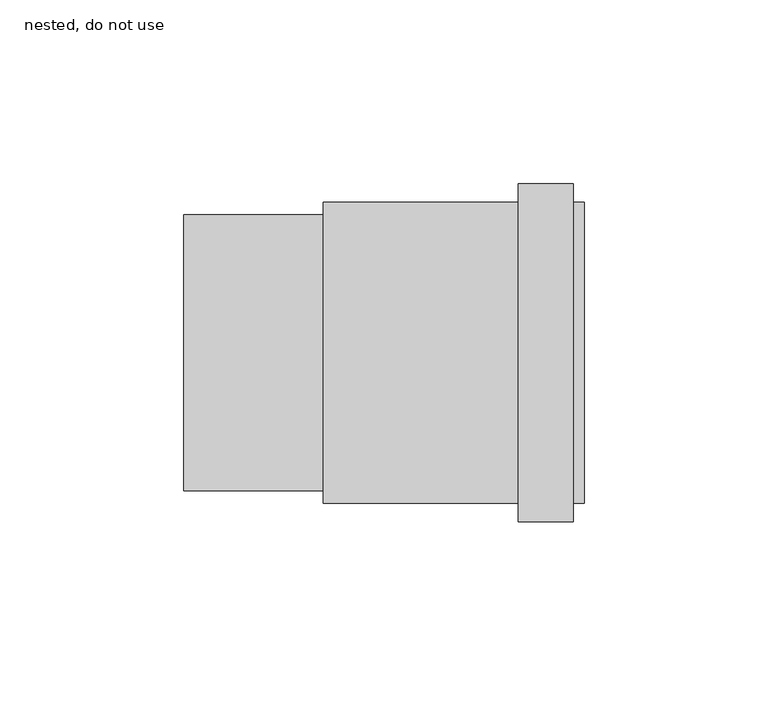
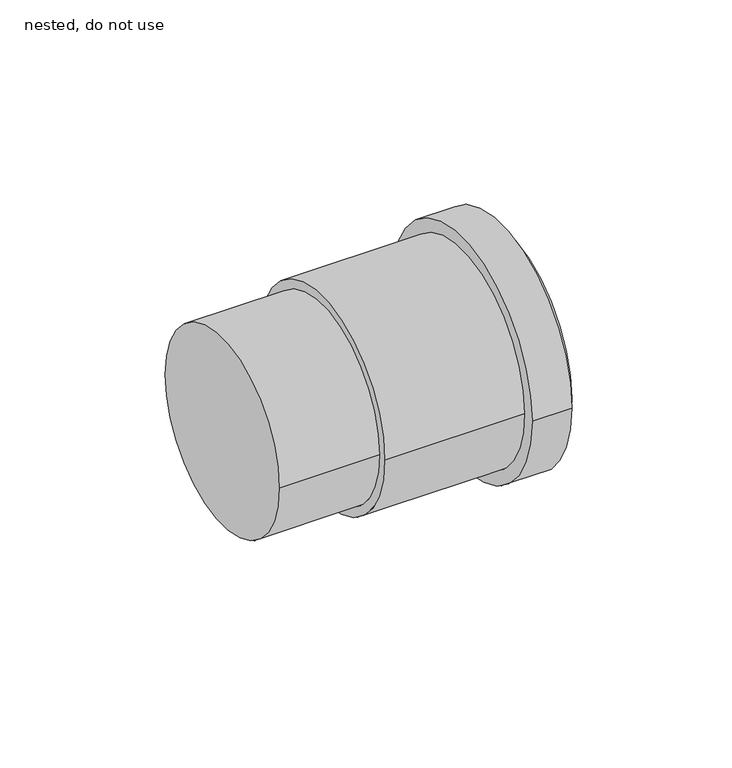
"""IFC4 building model written with IfcOpenShell, lengths in millimetres: pipe fitting geometry, NLRS_52_PIF_UN_HDPE plugin socket -SH_Akatherm : nested, do not use."""

import ifcopenshell
import ifcopenshell.guid

model = None  # the IFC model being written
_history = None  # IfcOwnerHistory: only IFC2X3 demands one
_inside = {}  # id of a spatial element -> (the spatial element, [elements in it])
_under = {}  # id of a project, library or spatial element -> (it, [spatial elements below it])
_declared = {}  # id of a project -> (the project, [libraries it declares])
_typed = {}  # id of a type object -> (the type object, [elements of that type])
_made_of = {}  # id of a material, layer set ... -> (it, [elements and type objects made of it])


def new_model(schema):
    """Start an empty IFC model of exactly this schema.

    Asked for "IFC4X3", IfcOpenShell would pick the latest addendum, in which some entities
    have other attributes; the version numbers below select the first issue.
    IFC2X3 requires an IfcOwnerHistory on every rooted entity: one is made here for all.
    """
    global model, _history
    if schema == "IFC4X3":
        model = ifcopenshell.file(schema_version=(4, 3, 0, 0))
    else:
        model = ifcopenshell.file(schema=schema)
    _inside.clear()
    _under.clear()
    _declared.clear()
    _typed.clear()
    _made_of.clear()
    _history = None
    if model.schema == "IFC2X3":
        org = make("IfcOrganization", Name="unknown")
        user = make(
            "IfcPersonAndOrganization",
            ThePerson=make("IfcPerson", FamilyName="unknown"),
            TheOrganization=org,
        )
        app = make(
            "IfcApplication",
            ApplicationDeveloper=org,
            Version="unknown",
            ApplicationFullName="unknown",
            ApplicationIdentifier="unknown",
        )
        _history = make(
            "IfcOwnerHistory",
            OwningUser=user,
            OwningApplication=app,
            ChangeAction="ADDED",
            CreationDate=0,
        )
    return model


def make(cls, **values):
    """One entity of the class cls with the attributes given. An attribute that is None is left unset."""
    return model.create_entity(
        cls, **{name: value for name, value in values.items() if value is not None}
    )


def rooted(cls, **values):
    """An entity with a GlobalId (a new one), such as an element, a storey or a relation."""
    return make(cls, GlobalId=ifcopenshell.guid.new(), OwnerHistory=_history, **values)


def si_unit(unit_type, name, prefix=None):
    """IfcSIUnit, for example si_unit("LENGTHUNIT", "METRE", prefix="MILLI")."""
    return make("IfcSIUnit", UnitType=unit_type, Prefix=prefix, Name=name)


def assignment(units):
    """IfcUnitAssignment: the units of a project."""
    return None if units is None else make("IfcUnitAssignment", Units=units)


def point(xyz):
    """IfcCartesianPoint."""
    return None if xyz is None else make("IfcCartesianPoint", Coordinates=xyz)


def direction(xyz):
    """IfcDirection."""
    return None if xyz is None else make("IfcDirection", DirectionRatios=xyz)


def frame(location, z_axis=None, x_axis=None):
    """IfcAxis2Placement3D, a coordinate frame: its origin and axes. An axis left out is left unset."""
    return make(
        "IfcAxis2Placement3D",
        Location=point(location),
        Axis=direction(z_axis),
        RefDirection=direction(x_axis),
    )


def origin():
    """The frame at (0, 0, 0) with its axes left unset."""
    return frame((0.0, 0.0, 0.0))


def place(relative_to, where):
    """IfcLocalPlacement: puts the frame where relative to a parent placement (None: the world)."""
    return make(
        "IfcLocalPlacement", PlacementRelTo=relative_to, RelativePlacement=where
    )


def context(
    kind, dimensions, precision=None, world=None, true_north=None, identifier=None
):
    """IfcGeometricRepresentationContext, for example the 3D "Model" context."""
    return make(
        "IfcGeometricRepresentationContext",
        ContextIdentifier=identifier,
        ContextType=kind,
        CoordinateSpaceDimension=dimensions,
        Precision=precision,
        WorldCoordinateSystem=world,
        TrueNorth=true_north,
    )


def project(units=None, contexts=None):
    """IfcProject with its units and contexts."""
    return rooted(
        "IfcProject",
        Name="project",
        RepresentationContexts=contexts,
        UnitsInContext=assignment(units),
    )


def spatial(cls, under=None, at=None, **own):
    """A site, building, storey or space (cls), placed at a placement, below another one or the project."""
    s = rooted(cls, ObjectPlacement=at, **own)
    if under is not None:
        _under.setdefault(under.id(), (under, []))[1].append(s)
    return s


def circle_curve(where, radius):
    """IfcCircle in the frame where."""
    return make("IfcCircle", Position=where, Radius=radius)


def shape(context_of_items, identifier, shape_type, items):
    """IfcShapeRepresentation: the items that make up one representation, for example the "Body"."""
    return make(
        "IfcShapeRepresentation",
        ContextOfItems=context_of_items,
        RepresentationIdentifier=identifier,
        RepresentationType=shape_type,
        Items=items,
    )


def source(mapping_origin, context_of_items, identifier, shape_type, items):
    """IfcRepresentationMap: a shape defined once, which mapped items show again and again."""
    return make(
        "IfcRepresentationMap",
        MappingOrigin=mapping_origin,
        MappedRepresentation=shape(context_of_items, identifier, shape_type, items),
    )


def transform(
    local_origin,
    x_axis=None,
    y_axis=None,
    z_axis=None,
    scale=None,
    scale2=None,
    scale3=None,
    uniform=True,
):
    """IfcCartesianTransformationOperator3D, or its non-uniform kind. x_axis, y_axis, z_axis: its Axis1, 2, 3."""
    if uniform:
        return make(
            "IfcCartesianTransformationOperator3D",
            Axis1=direction(x_axis),
            Axis2=direction(y_axis),
            LocalOrigin=point(local_origin),
            Scale=scale,
            Axis3=direction(z_axis),
        )
    return make(
        "IfcCartesianTransformationOperator3DnonUniform",
        Axis1=direction(x_axis),
        Axis2=direction(y_axis),
        LocalOrigin=point(local_origin),
        Scale=scale,
        Axis3=direction(z_axis),
        Scale2=scale2,
        Scale3=scale3,
    )


def mapped(mapping_source, mapping_target):
    """IfcMappedItem: shows the shape of a source again, moved by a transform."""
    return make(
        "IfcMappedItem", MappingSource=mapping_source, MappingTarget=mapping_target
    )


def made_of(thing, what):
    """Note that an element or type object is made of a material, layer set ...; save() writes the relation."""
    if what is not None:
        _made_of.setdefault(what.id(), (what, []))[1].append(thing)
    return thing


def element(
    cls,
    number,
    at=None,
    inside=None,
    cuts=None,
    type_object=None,
    material=None,
    context=None,
    identifier="Body",
    shape_type=None,
    held_by="IfcProductDefinitionShape",
    body=None,
    shapes=None,
    **own,
):
    """One element of the class cls, such as IfcWall. Its Tag is "e" and its number.

    at: its placement. inside: the storey or other place that contains it. cuts: it is an
    opening in that element (IfcRelVoidsElement). A single representation is given by context,
    identifier, shape_type and body (its items); several are given by shapes. held_by: the class
    of the entity that holds the representations. save() writes the other relations.
    """
    e = rooted(cls, Tag="e%d" % number, ObjectPlacement=at, **own)
    if body is not None:
        shapes = [shape(context, identifier, shape_type, body)]
    if shapes is not None:
        e.Representation = make(held_by, Representations=shapes)
    if inside is not None:
        _inside.setdefault(inside.id(), (inside, []))[1].append(e)
    if cuts is not None:
        rooted(
            "IfcRelVoidsElement", RelatingBuildingElement=cuts, RelatedOpeningElement=e
        )
    if type_object is not None:
        _typed.setdefault(type_object.id(), (type_object, []))[1].append(e)
    return made_of(e, material)


def aggregate(whole, parts):
    """IfcRelAggregates: a whole, such as a stair, and the parts it consists of."""
    return rooted("IfcRelAggregates", RelatingObject=whole, RelatedObjects=parts)


def save(model, path):
    """Write the relations noted so far, then the file.

    IfcRelAggregates (storeys below a building ...), IfcRelContainedInSpatialStructure (elements
    in a storey), IfcRelDefinesByType, IfcRelAssociatesMaterial and IfcRelDeclares: one each for
    every whole, place, type object, material and project.
    """
    for whole, parts in _under.values():
        aggregate(whole, parts)
    for where, things in _inside.values():
        rooted(
            "IfcRelContainedInSpatialStructure",
            RelatedElements=things,
            RelatingStructure=where,
        )
    for kind, things in _typed.values():
        rooted("IfcRelDefinesByType", RelatedObjects=things, RelatingType=kind)
    for what, things in _made_of.values():
        rooted("IfcRelAssociatesMaterial", RelatedObjects=things, RelatingMaterial=what)
    for by, libraries in _declared.values():
        rooted("IfcRelDeclares", RelatingContext=by, RelatedDefinitions=libraries)
    model.write(path)


def plane_surface(at):
    """IfcPlane: the flat surface through the origin of the frame at, square to its z axis."""
    return make("IfcPlane", Position=at)


def cylinder_surface(at, radius):
    """IfcCylindricalSurface: all points at the distance radius from the z axis of the frame at."""
    return make("IfcCylindricalSurface", Position=at, Radius=radius)


def advanced_brep(points, edges, surfaces, faces):
    """IfcAdvancedBrep: a solid bounded by faces that lie on surfaces and meet in shared edges.

    An edge is (start, end): straight between two places in points (the first is 0);
    or (start, end, curve); or (start, end, curve, False) where it runs against its curve.
    A face is (place in surfaces, loops), or (place, loops, False) where it looks against
    its surface's normal. A loop lists edges by number (the first is 1), with a minus sign
    where the edge is run from its end to its start. The first loop is the outer one.
    """
    corners = [point(p) for p in points]
    vertices = [make("IfcVertexPoint", VertexGeometry=c) for c in corners]
    made = []
    for start, end, *more in edges:
        made.append(
            make(
                "IfcEdgeCurve",
                EdgeStart=vertices[start],
                EdgeEnd=vertices[end],
                EdgeGeometry=more[0] if more else make("IfcPolyline", Points=[corners[start], corners[end]]),
                SameSense=more[1] if len(more) > 1 else True,
            )
        )
    hull = []
    for where, loops, *sense in faces:
        bounds = []
        for j, loop in enumerate(loops):
            ring = [make("IfcOrientedEdge", EdgeElement=made[abs(k) - 1], Orientation=k > 0) for k in loop]
            bounds.append(
                make(
                    "IfcFaceOuterBound" if j == 0 else "IfcFaceBound",
                    Bound=make("IfcEdgeLoop", EdgeList=ring),
                    Orientation=True,
                )
            )
        hull.append(make("IfcAdvancedFace", Bounds=bounds, FaceSurface=surfaces[where], SameSense=sense[0] if sense else True))
    return make("IfcAdvancedBrep", Outer=make("IfcClosedShell", CfsFaces=hull))


def nested_do_not_use_1a4f5e9d(model_context):
    return source(origin(), model_context, "Body", "AdvancedBrep", [
        advanced_brep(
        [(-39.0, -37.5, 0.0), (-39.0, 37.5, 0.0), (-1.0, 37.5, 0.0), (-1.0, -37.5, 0.0), (70.0, -40.95, 0.0), (70.0, 40.95, 0.0), (-1.0, -40.95, 0.0), (-1.0, 40.95, 0.0), (67.0, -40.95, 0.0), (67.0, 40.95, 0.0), (52.0, 40.95, 0.0), (52.0, -40.95, 0.0), (67.0, -46.0, 0.0), (67.0, 46.0, 0.0), (52.0, -46.0, 0.0), (52.0, 46.0, 0.0)],
        [
            (0, 1, circle_curve(frame((-39.0, 0.0, 0.0), z_axis=(-1.0, 0.0, 0.0), x_axis=(0.0, 1.0, 0.0)), 37.5)),
            (1, 0, circle_curve(frame((-39.0, 0.0, 0.0), z_axis=(-1.0, 0.0, 0.0), x_axis=(0.0, 1.0, 0.0)), 37.5)),
            (1, 2),
            (2, 3, circle_curve(frame((-1.0, 0.0, 0.0), z_axis=(-1.0, 0.0, 0.0), x_axis=(0.0, 1.0, 0.0)), 37.5)),
            (3, 0),
            (3, 2, circle_curve(frame((-1.0, 0.0, 0.0), z_axis=(-1.0, 0.0, 0.0), x_axis=(0.0, 1.0, 0.0)), 37.5)),
            (4, 5, circle_curve(frame((70.0, 0.0, 0.0), z_axis=(1.0, 0.0, 0.0), x_axis=(0.0, 1.0, 0.0)), 40.95)),
            (5, 4, circle_curve(frame((70.0, 0.0, 0.0), z_axis=(1.0, 0.0, 0.0), x_axis=(0.0, 1.0, 0.0)), 40.95)),
            (6, 7, circle_curve(frame((-1.0, 0.0, 0.0), z_axis=(-1.0, 0.0, 0.0), x_axis=(0.0, 1.0, 0.0)), 40.95)),
            (7, 6, circle_curve(frame((-1.0, 0.0, 0.0), z_axis=(-1.0, 0.0, 0.0), x_axis=(0.0, 1.0, 0.0)), 40.95)),
            (4, 8),
            (8, 9, circle_curve(frame((67.0, 0.0, 0.0), z_axis=(1.0, 0.0, 0.0), x_axis=(0.0, 1.0, 0.0)), 40.95)),
            (9, 5),
            (7, 10),
            (10, 11, circle_curve(frame((52.0, 0.0, 0.0), z_axis=(-1.0, 0.0, 0.0), x_axis=(0.0, 1.0, 0.0)), 40.95)),
            (11, 6),
            (9, 8, circle_curve(frame((67.0, 0.0, 0.0), z_axis=(1.0, 0.0, 0.0), x_axis=(0.0, 1.0, 0.0)), 40.95)),
            (11, 10, circle_curve(frame((52.0, 0.0, 0.0), z_axis=(-1.0, 0.0, 0.0), x_axis=(0.0, 1.0, 0.0)), 40.95)),
            (12, 13, circle_curve(frame((67.0, 0.0, 0.0), z_axis=(1.0, 0.0, 0.0), x_axis=(0.0, 1.0, 0.0)), 46.0)),
            (13, 12, circle_curve(frame((67.0, 0.0, 0.0), z_axis=(1.0, 0.0, 0.0), x_axis=(0.0, 1.0, 0.0)), 46.0)),
            (14, 15, circle_curve(frame((52.0, 0.0, 0.0), z_axis=(-1.0, 0.0, 0.0), x_axis=(0.0, 1.0, 0.0)), 46.0)),
            (15, 14, circle_curve(frame((52.0, 0.0, 0.0), z_axis=(-1.0, 0.0, 0.0), x_axis=(0.0, 1.0, 0.0)), 46.0)),
            (12, 14),
            (15, 13),
        ],
        [
            plane_surface(frame((-39.0, 37.5, 0.0), z_axis=(-1.0, 0.0, 0.0), x_axis=(0.0, 0.0, -1.0))),
            cylinder_surface(frame((-39.0, 0.0, 0.0), z_axis=(1.0, 0.0, 0.0), x_axis=(0.0, 1.0, 0.0)), 37.5),
            plane_surface(frame((70.0, 40.95, 0.0), z_axis=(1.0, 0.0, 0.0), x_axis=(0.0, 0.0, 1.0))),
            plane_surface(frame((-1.0, 40.95, 0.0), z_axis=(-1.0, 0.0, 0.0), x_axis=(0.0, 0.0, -1.0))),
            cylinder_surface(frame((-1.0, 0.0, 0.0), z_axis=(1.0, 0.0, 0.0), x_axis=(0.0, 1.0, 0.0)), 40.95),
            plane_surface(frame((67.0, 46.0, 0.0), z_axis=(1.0, 0.0, 0.0), x_axis=(0.0, 0.0, 1.0))),
            plane_surface(frame((52.0, 46.0, 0.0), z_axis=(-1.0, 0.0, 0.0), x_axis=(0.0, 0.0, -1.0))),
            cylinder_surface(frame((52.0, 0.0, 0.0), z_axis=(1.0, 0.0, 0.0), x_axis=(0.0, 1.0, 0.0)), 46.0),
        ],
        [
            (0, [[1, 2]]),
            (1, [[-2, 3, 4, 5]]),
            (1, [[-1, -5, 6, -3]]),
            (2, [[7, 8]]),
            (3, [[9, 10], [-4, -6]]),
            (4, [[-7, 11, 12, 13]]),
            (4, [[-10, 14, 15, 16]]),
            (4, [[-8, -13, 17, -11]]),
            (4, [[-9, -16, 18, -14]]),
            (5, [[19, 20], [-12, -17]]),
            (6, [[21, 22], [-15, -18]]),
            (7, [[-19, 23, -22, 24]]),
            (7, [[-20, -24, -21, -23]]),
        ],
    ),
    ])


if __name__ == "__main__":
    model = new_model("IFC4")
    model_context = context("Model", 3, world=origin())
    ifc_project = project(units=[si_unit("LENGTHUNIT", "METRE", prefix="MILLI")], contexts=[model_context])
    site = spatial("IfcSite", under=ifc_project)
    building = spatial("IfcBuilding", under=site)
    placement = place(None, origin())
    nested_do_not_use_shape = nested_do_not_use_1a4f5e9d(model_context)
    element("IfcPipeFitting", 1, ObjectType="NLRS_52_PIF_UN_HDPE plugin socket -SH_Akatherm : nested, do not use", at=placement, inside=building, context=model_context, shape_type="MappedRepresentation", body=[
        mapped(nested_do_not_use_shape, transform((0.0, 0.0, 0.0), x_axis=(1.0, 0.0, 0.0), y_axis=(0.0, 1.0, 0.0), z_axis=(0.0, 0.0, 1.0))),
    ])
    save(model, "model.ifc")
